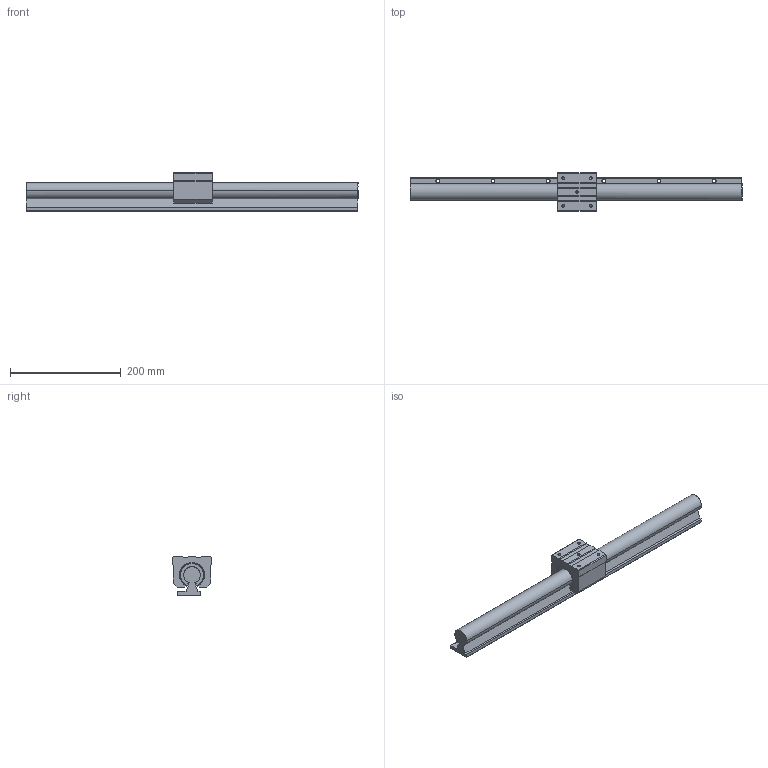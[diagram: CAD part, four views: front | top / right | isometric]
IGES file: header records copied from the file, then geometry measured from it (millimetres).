
Global section: file name: No Iges File Name specified; native system: AutoDesk Inventor R10; preprocessor: AutoDesk Inventor Iges Exporter R10; author: No Author specified; organization: No Organization specified; date: 20101221.091533; units: millimetre
Bounding box: 600 x 70 x 70 mm (x, y, z)
Surface area: 151407.4 mm2 (no closed solid volume)
Topology: 0 solids, 0 shells, 220 faces, 1448 edges, 1426 vertices
Faces by surface type: bspline 220
